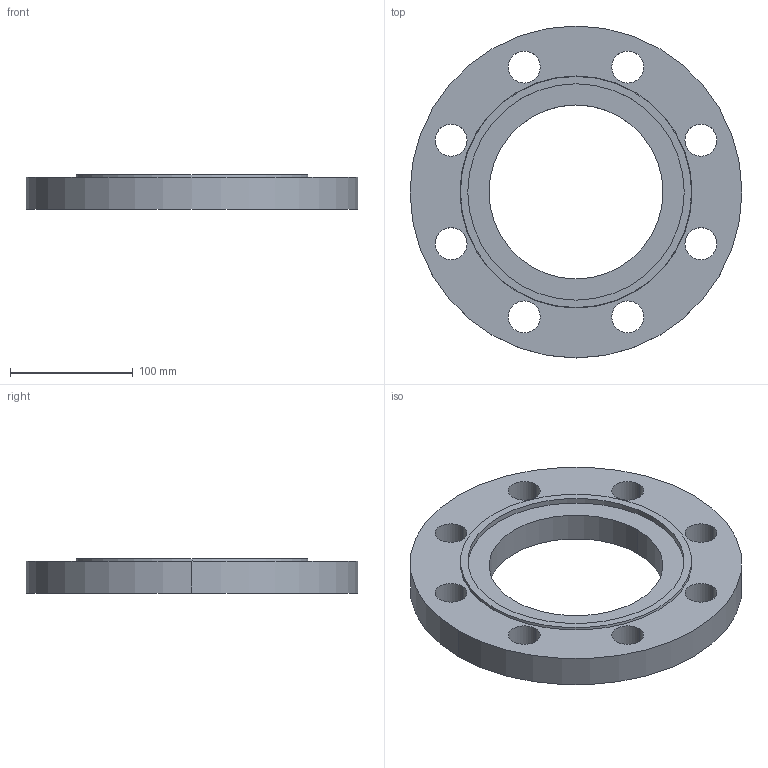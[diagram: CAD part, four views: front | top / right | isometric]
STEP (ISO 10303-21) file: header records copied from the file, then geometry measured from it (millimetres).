
FILE_DESCRIPTION (( 'STEP AP214' ), '1' );
FILE_NAME ('PN40 DN125 Type 01 - Type F Face.STEP', '2019-01-02T19:38:11', ( '' ), ( '' ), 'SwSTEP 2.0', 'SolidWorks 2019', '' );
FILE_SCHEMA (( 'AUTOMOTIVE_DESIGN' ));
Length unit declared in the file: millimetre
Products named in the file (1): PN40 DN125 Type 01 - Type F Face
Bounding box: 270 x 270 x 28 mm (x, y, z)
Volume: 954911.2 mm3; surface area: 127536.8 mm2
Topology: 1 solids, 1 shells, 28 faces, 72 edges, 48 vertices
Faces by surface type: cylinder 22, plane 4, cone 2
Entity records: 954 total; most frequent: DIRECTION 178, CARTESIAN_POINT 149, ORIENTED_EDGE 144, AXIS2_PLACEMENT_3D 77, EDGE_CURVE 72, CIRCLE 48, EDGE_LOOP 48, VERTEX_POINT 48
